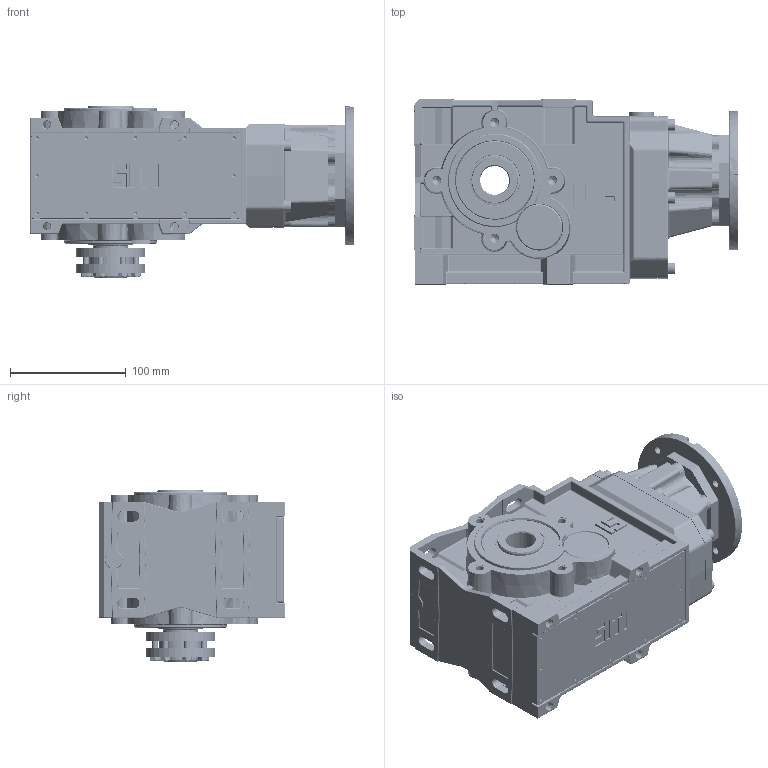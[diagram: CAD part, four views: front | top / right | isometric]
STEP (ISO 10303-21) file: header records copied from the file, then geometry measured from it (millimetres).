
FILE_DESCRIPTION((''),'2;1');
FILE_NAME('C:\Users\m.piscopiello.SITIRIDUTTORI\Desktop\3D x SITO\MBH 56 PAM 56\MBH_56 CC-B PAM56 B5.stp','2013-04-23T09:32:39',('m.piscopiello'),(''),'Autodesk Inventor 2012','Autodesk Inventor 2012','');
FILE_SCHEMA(('CONFIG_CONTROL_DESIGN'));
Length unit declared in the file: millimetre
Products named in the file (1): MBH_56 CC-B PAM56 B5
Bounding box: 280.5 x 160 x 148.03 mm (x, y, z)
Volume: 1379062.3 mm3; surface area: 458831.6 mm2
Topology: 32 solids, 60 shells, 4617 faces, 11024 edges, 6409 vertices
Faces by surface type: cylinder 1484, plane 1232, bspline 840, torus 519, cone 343, sphere 199
Full cylindrical faces by diameter (mm): 3 x4, 3.242 x12, 4.917 x6, 5 x7, 6 x16, 6.5 x10, 6.647 x12, 7 x24, 8.5 x1, 8.7 x11, 9.9 x1, 10 x25, 11 x7, 12.5 x1, 15.01 x1, 18.2 x1, 19 x1, 19.37 x1, 19.97 x2, 23.5 x1, 25 x2, 26 x1, 30 x3, 33 x2, 34.4 x1, 35 x3, 36.875 x2, 37 x1, 39.4 x1, 40 x18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
Entity records: 152075 total; most frequent: CARTESIAN_POINT 48625, DIRECTION 20660, ORIENTED_EDGE 19872, EDGE_CURVE 9937, AXIS2_PLACEMENT_3D 8502, VERTEX_POINT 6120, EDGE_LOOP 5439, FACE_OUTER_BOUND 4617
